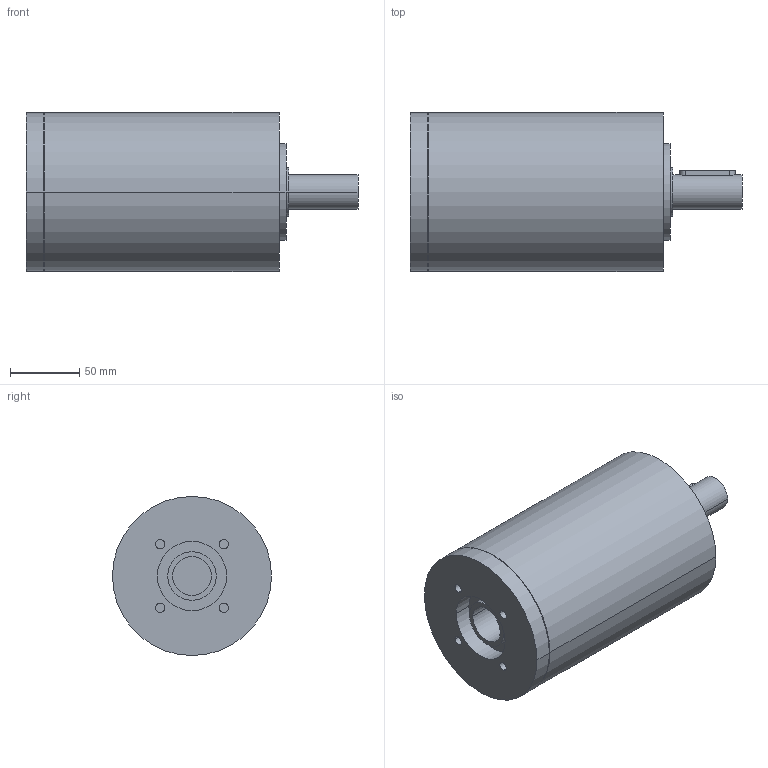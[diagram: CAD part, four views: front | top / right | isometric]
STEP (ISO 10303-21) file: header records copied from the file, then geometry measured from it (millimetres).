
FILE_DESCRIPTION(('CoCreate Modeling STEP Export'),'2;1');
FILE_NAME('GPR125_ig-9-12-16-20-28-35_25_B14_28_P10.stp','2014-08-26T14:11:39',(''),(''),'CoCreate Modeling STEP processor for AP214 (Solid Model)','CoCreate Modeling 16.00C 25-Feb-2009 (C) Parametric Technology GmbH','');
FILE_SCHEMA(('AUTOMOTIVE_DESIGN { 1 0 10303 214 1 1 1 1 }'));
Length unit declared in the file: millimetre
Products named in the file (2): GPR125_ig-9-12-16-20-28-35_25_B14_28_P10
Assembly tree (1 placements, depth 2):
  GPR125_ig-9-12-16-20-28-35_25_B14_28_P10
    GPR125_ig-9-12-16-20-28-35_25_B14_28_P10
Bounding box: 240 x 115 x 115 mm (x, y, z)
Volume: 1885924.1 mm3; surface area: 104799.3 mm2
Topology: 1 solids, 1 shells, 72 faces, 186 edges, 134 vertices
Faces by surface type: cylinder 44, plane 24, cone 4
Entity records: 1865 total; most frequent: ORIENTED_EDGE 368, CARTESIAN_POINT 348, DIRECTION 238, EDGE_CURVE 184, VERTEX_POINT 134, AXIS2_PLACEMENT_3D 92, EDGE_LOOP 92, FACE_OUTER_BOUND 72
